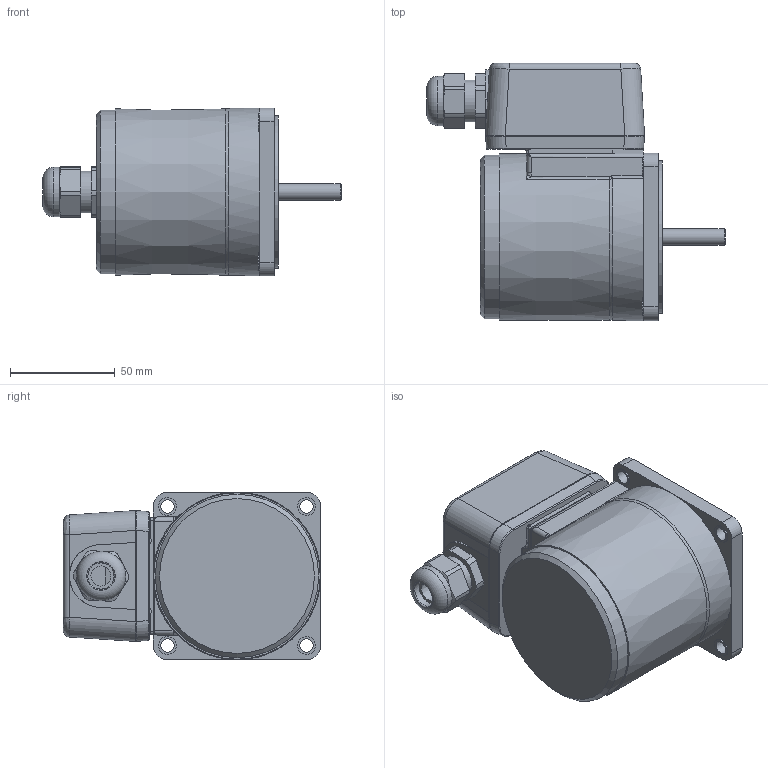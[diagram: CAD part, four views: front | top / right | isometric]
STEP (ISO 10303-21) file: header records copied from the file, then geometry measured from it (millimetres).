
FILE_DESCRIPTION(/* description */ (''),/* implementation_level */ '2;1');
FILE_NAME(/* name */ 'Y:\제품연구개발\3. 도면\3. 고객배포용\3D_홈페이지용\01-1 Standard AC SG Series\04 TERMINAL BOX TYPE MOTORS\INDUCTION TERMINAL BOX\SG8I25_-T_\SG8I25S_-T.stp',/* time_stamp */ '2023-12-06T09:48:58+09:00',/* author */ ('shyi1037'),/* organization */ (''),/* preprocessor_version */ 'ST-DEVELOPER v18.1',/* originating_system */ 'Autodesk Inventor 2022',/* authorisation */ '');
FILE_SCHEMA (('AUTOMOTIVE_DESIGN { 1 0 10303 214 3 1 1 }'));
Length unit declared in the file: millimetre
Products named in the file (1): SG8I25S_-T
Bounding box: 142.5 x 123 x 80 mm (x, y, z)
Volume: 631083.5 mm3; surface area: 59215.8 mm2
Topology: 1 solids, 9 shells, 366 faces, 904 edges, 575 vertices
Faces by surface type: plane 190, cylinder 106, bspline 47, torus 18, cone 5
Full cylindrical faces by diameter (mm): 2.55 x2, 5.6 x4, 6.3 x4, 6.5 x4, 8 x1, 8.5 x4, 12.5 x1, 15 x1, 20 x2, 21 x1, 23.6 x1, 34 x1, 73 x1, 78 x1
Entity records: 13327 total; most frequent: CARTESIAN_POINT 4513, ORIENTED_EDGE 1794, DIRECTION 1713, EDGE_CURVE 897, AXIS2_PLACEMENT_3D 613, VERTEX_POINT 574, LINE 487, VECTOR 487
